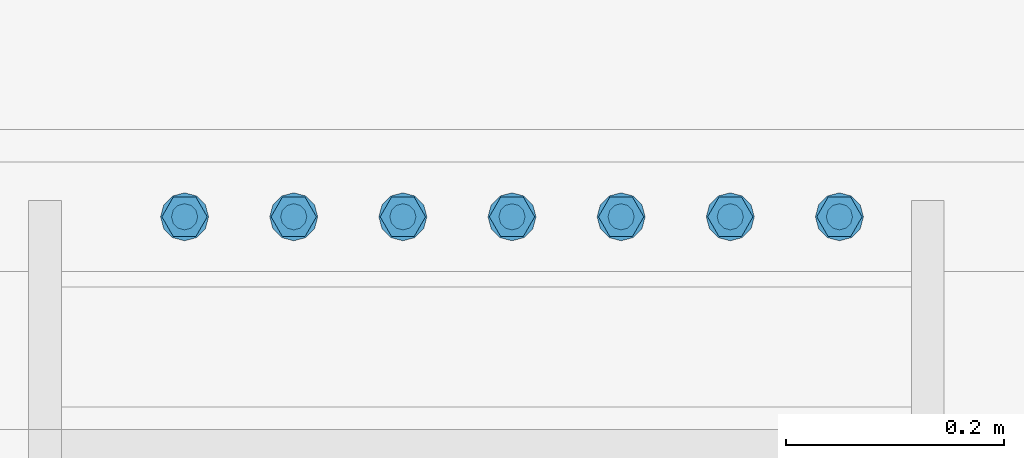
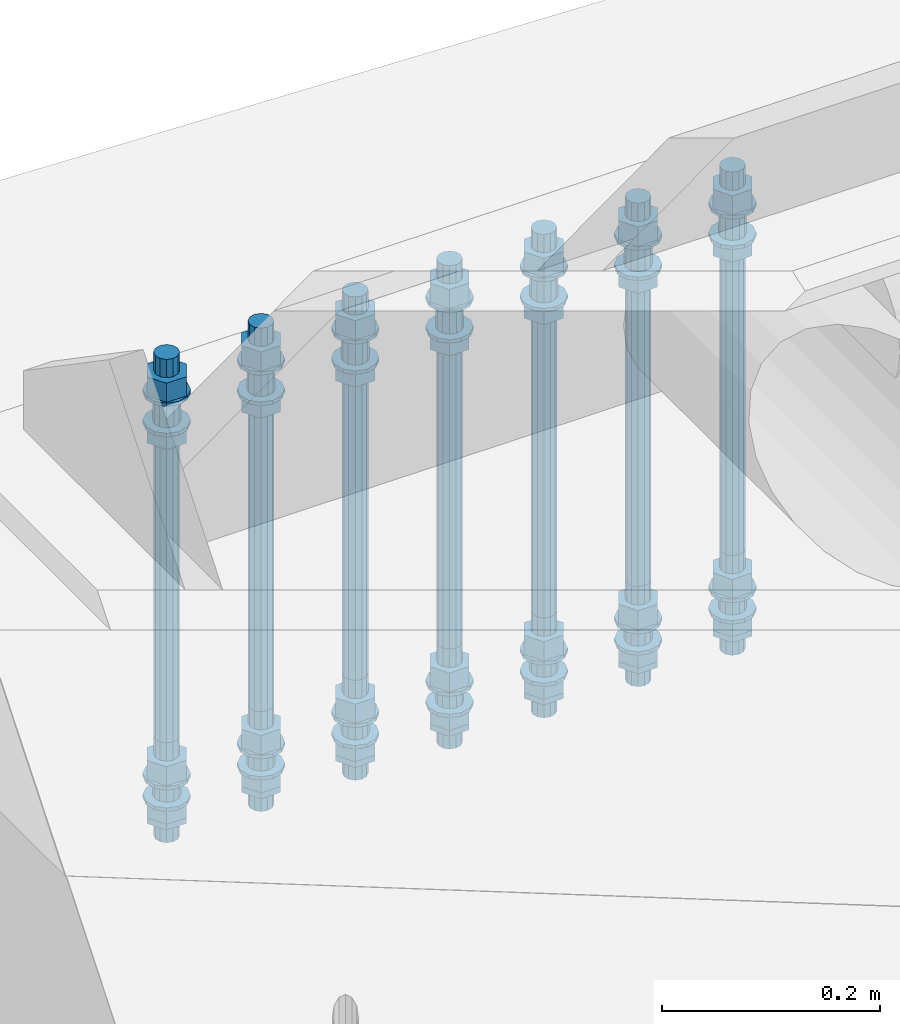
# One storey, part 36 of 1530: 3 mechanical fasteners.
"""IFC2X3 building model written with IfcOpenShell, lengths in millimetres."""

from ifc_helpers import new_model, si_unit, frame, origin_with_axes, place, context, subcontext, project, spatial, faceted_brep, source, transform, mapped, material, type_object, element, save


model = new_model("IFC2X3")

# Units and contexts
model_context = context("Model", 3, precision=1e-05, world=origin_with_axes())
body_context = subcontext(model_context, "Body", "Model", "MODEL_VIEW")
ifc_project = project(units=[si_unit("LENGTHUNIT", "METRE", prefix="MILLI"), si_unit("AREAUNIT", "SQUARE_METRE"), si_unit("VOLUMEUNIT", "CUBIC_METRE"), si_unit("MASSUNIT", "GRAM", prefix="KILO"), si_unit("TIMEUNIT", "SECOND"), si_unit("PLANEANGLEUNIT", "RADIAN"), si_unit("SOLIDANGLEUNIT", "STERADIAN"), si_unit("THERMODYNAMICTEMPERATUREUNIT", "DEGREE_CELSIUS"), si_unit("LUMINOUSINTENSITYUNIT", "LUMEN")], contexts=[model_context])

# Site, building, storey
site_placement = place(None, origin_with_axes())
site = spatial("IfcSite", under=ifc_project, at=site_placement, Name="Brattvåg", CompositionType="ELEMENT")
building_placement = place(site_placement, origin_with_axes())
building = spatial("IfcBuilding", under=site, at=building_placement, Name="Undefined", CompositionType="ELEMENT")
storey_placement = place(building_placement, origin_with_axes())
storey = spatial("IfcBuildingStorey", under=building, at=storey_placement, Name="Undefined", CompositionType="ELEMENT", Elevation=0.0)

# Mechanical fasteners
ifc_material = material(Name="8")
mechanical_fastener_type = type_object("IfcMechanicalFastenerType", Name="Bolt assembly")
shared_shape_1 = source(origin_with_axes(), body_context, "Body", "Brep", [
    faceted_brep([(20.7846096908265, -39.0003051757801, 0.0), (10.3923048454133, -39.0003051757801, 18.0), (-10.3923048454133, -39.0003051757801, 18.0), (-20.7846096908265, -39.0003051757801, 2.54538057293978e-15), (-10.3923048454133, -39.0003051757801, -18.0), (10.3923048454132, -39.0003051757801, -18.0), (10.3923048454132, -24.0003051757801, -18.0), (-10.3923048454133, -24.0003051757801, -18.0), (-20.7846096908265, -24.0003051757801, 2.54538057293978e-15), (-10.3923048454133, -24.0003051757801, 18.0), (10.3923048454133, -24.0003051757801, 18.0), (20.7846096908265, -24.0003051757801, 0.0), (12.0, -24.0003051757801, 0.0), (10.3923048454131, -24.0003051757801, 6.00000000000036), (5.99999999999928, -24.0003051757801, 10.3923048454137), (-1.24360317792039e-12, -24.0003051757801, 12.0), (-6.00000000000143, -24.0003051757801, 10.3923048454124), (-10.3923048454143, -24.0003051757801, 5.99999999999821), (-12.0, -24.0003051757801, -2.48720635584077e-12), (-10.3923048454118, -24.0003051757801, -6.00000000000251), (-5.99999999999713, -24.0003051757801, -10.3923048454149), (3.71748685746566e-12, -24.0003051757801, -12.0), (6.00000000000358, -24.0003051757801, -10.3923048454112), (10.3923048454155, -24.0003051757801, -5.99999999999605), (10.3923048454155, 45.9996948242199, -5.99999999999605), (6.00000000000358, 45.9996948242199, -10.3923048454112), (3.71748685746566e-12, 45.9996948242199, -12.0), (-5.99999999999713, 45.9996948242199, -10.3923048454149), (-10.3923048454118, 45.9996948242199, -6.00000000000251), (-12.0, 45.9996948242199, -2.48720635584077e-12), (-10.3923048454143, 45.9996948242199, 5.99999999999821), (-6.00000000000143, 45.9996948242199, 10.3923048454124), (-1.24360317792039e-12, 45.9996948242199, 12.0), (5.99999999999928, 45.9996948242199, 10.3923048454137), (10.3923048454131, 45.9996948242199, 6.00000000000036), (12.0, 45.9996948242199, 0.0), (22.0, -24.0003051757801, 0.0), (19.0525588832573, -24.0003051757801, 11.0000000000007), (10.9999999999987, -24.0003051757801, 19.0525588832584), (-2.27993915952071e-12, -24.0003051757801, 22.0), (-11.0000000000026, -24.0003051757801, 19.0525588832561), (-19.0525588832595, -24.0003051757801, 10.9999999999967), (-22.0, -24.0003051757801, -4.55987831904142e-12), (-19.052558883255, -24.0003051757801, -11.0000000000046), (-10.9999999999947, -24.0003051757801, -19.0525588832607), (6.81539257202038e-12, -24.0003051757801, -22.0), (11.0000000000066, -24.0003051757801, -19.0525588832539), (19.0525588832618, -24.0003051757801, -10.9999999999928), (19.0525588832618, -20.0003051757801, -10.9999999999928), (11.0000000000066, -20.0003051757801, -19.0525588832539), (6.81539257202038e-12, -20.0003051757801, -22.0), (-10.9999999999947, -20.0003051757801, -19.0525588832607), (-19.052558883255, -20.0003051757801, -11.0000000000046), (-22.0, -20.0003051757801, -4.55987831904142e-12), (-19.0525588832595, -20.0003051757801, 10.9999999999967), (-11.0000000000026, -20.0003051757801, 19.0525588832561), (-2.27993915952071e-12, -20.0003051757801, 22.0), (10.9999999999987, -20.0003051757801, 19.0525588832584), (19.0525588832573, -20.0003051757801, 11.0000000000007), (22.0, -20.0003051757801, 0.0), (22.0, -0.000305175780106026, 0.0), (19.0525588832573, -0.000305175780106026, 11.0000000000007), (10.9999999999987, -0.000305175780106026, 19.0525588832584), (-2.27993915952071e-12, -0.000305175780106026, 22.0), (-11.0000000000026, -0.000305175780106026, 19.0525588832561), (-19.0525588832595, -0.000305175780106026, 10.9999999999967), (-22.0, -0.000305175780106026, -4.55987831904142e-12), (-19.052558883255, -0.000305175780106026, -11.0000000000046), (-10.9999999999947, -0.000305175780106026, -19.0525588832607), (6.81539257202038e-12, -0.000305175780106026, -22.0), (11.0000000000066, -0.000305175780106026, -19.0525588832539), (19.0525588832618, -0.000305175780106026, -10.9999999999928), (19.0525588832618, 3.99969482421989, -10.9999999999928), (11.0000000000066, 3.99969482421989, -19.0525588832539), (6.81539257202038e-12, 3.99969482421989, -22.0), (-10.9999999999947, 3.99969482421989, -19.0525588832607), (-19.052558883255, 3.99969482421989, -11.0000000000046), (-22.0, 3.99969482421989, -4.55987831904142e-12), (-19.0525588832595, 3.99969482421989, 10.9999999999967), (-11.0000000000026, 3.99969482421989, 19.0525588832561), (-2.27993915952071e-12, 3.99969482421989, 22.0), (10.9999999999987, 3.99969482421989, 19.0525588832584), (19.0525588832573, 3.99969482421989, 11.0000000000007), (22.0, 3.99969482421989, 0.0), (20.7846096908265, 3.99969482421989, 0.0), (10.3923048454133, 3.99969482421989, 18.0), (-10.3923048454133, 3.99969482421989, 18.0), (-20.7846096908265, 3.99969482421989, 2.54538057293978e-15), (-10.3923048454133, 3.99969482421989, -18.0), (10.3923048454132, 3.99969482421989, -18.0), (10.3923048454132, 25.4996948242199, -18.0), (-10.3923048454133, 25.4996948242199, -18.0), (-20.7846096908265, 25.4996948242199, 2.54538057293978e-15), (-10.3923048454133, 25.4996948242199, 18.0), (10.3923048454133, 25.4996948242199, 18.0), (20.7846096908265, 25.4996948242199, 0.0)], [[[0, 1, 2, 3, 4, 5]], [[6, 7, 8, 9, 10, 11]], [[0, 11, 10, 1]], [[1, 10, 9, 2]], [[2, 9, 8, 3]], [[3, 8, 7, 4]], [[4, 7, 6, 5]], [[5, 6, 11, 0]], [[12, 13, 14, 15, 16, 17, 18, 19, 20, 21, 22, 23]], [[24, 25, 26, 27, 28, 29, 30, 31, 32, 33, 34, 35]], [[12, 35, 34, 13]], [[13, 34, 33, 14]], [[14, 33, 32, 15]], [[15, 32, 31, 16]], [[16, 31, 30, 17]], [[17, 30, 29, 18]], [[18, 29, 28, 19]], [[19, 28, 27, 20]], [[20, 27, 26, 21]], [[21, 26, 25, 22]], [[22, 25, 24, 23]], [[23, 24, 35, 12]], [[36, 37, 38, 39, 40, 41, 42, 43, 44, 45, 46, 47]], [[48, 49, 50, 51, 52, 53, 54, 55, 56, 57, 58, 59]], [[36, 59, 58, 37]], [[37, 58, 57, 38]], [[38, 57, 56, 39]], [[39, 56, 55, 40]], [[40, 55, 54, 41]], [[41, 54, 53, 42]], [[42, 53, 52, 43]], [[43, 52, 51, 44]], [[44, 51, 50, 45]], [[45, 50, 49, 46]], [[46, 49, 48, 47]], [[47, 48, 59, 36]], [[60, 61, 62, 63, 64, 65, 66, 67, 68, 69, 70, 71]], [[72, 73, 74, 75, 76, 77, 78, 79, 80, 81, 82, 83]], [[60, 83, 82, 61]], [[61, 82, 81, 62]], [[62, 81, 80, 63]], [[63, 80, 79, 64]], [[64, 79, 78, 65]], [[65, 78, 77, 66]], [[66, 77, 76, 67]], [[67, 76, 75, 68]], [[68, 75, 74, 69]], [[69, 74, 73, 70]], [[70, 73, 72, 71]], [[71, 72, 83, 60]], [[84, 85, 86, 87, 88, 89]], [[90, 91, 92, 93, 94, 95]], [[84, 95, 94, 85]], [[85, 94, 93, 86]], [[86, 93, 92, 87]], [[87, 92, 91, 88]], [[88, 91, 90, 89]], [[89, 90, 95, 84]]]),
    faceted_brep([(13.0, -20.0003051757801, 0.0), (11.2583302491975, -20.0003051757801, 6.50000000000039), (6.49999999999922, -20.0003051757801, 11.2583302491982), (-1.34723677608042e-12, -20.0003051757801, 13.0), (-6.50000000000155, -20.0003051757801, 11.2583302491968), (-11.2583302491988, -20.0003051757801, 6.49999999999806), (-13.0, -20.0003051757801, -2.69447355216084e-12), (-11.2583302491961, -20.0003051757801, -6.50000000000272), (-6.4999999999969, -20.0003051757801, -11.2583302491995), (4.02727742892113e-12, -20.0003051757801, -13.0), (6.50000000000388, -20.0003051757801, -11.2583302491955), (11.2583302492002, -20.0003051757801, -6.49999999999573), (11.2583302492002, 0.0996948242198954, -6.49999999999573), (6.50000000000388, 0.0996948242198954, -11.2583302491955), (4.02727742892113e-12, 0.0996948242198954, -13.0), (-6.4999999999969, 0.0996948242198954, -11.2583302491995), (-11.2583302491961, 0.0996948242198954, -6.50000000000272), (-13.0, 0.0996948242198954, -2.69447355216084e-12), (-11.2583302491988, 0.0996948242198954, 6.49999999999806), (-6.50000000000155, 0.0996948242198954, 11.2583302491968), (-1.34723677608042e-12, 0.0996948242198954, 13.0), (6.49999999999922, 0.0996948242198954, 11.2583302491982), (11.2583302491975, 0.0996948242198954, 6.50000000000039), (13.0, 0.0996948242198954, 0.0)], [[[0, 1, 2, 3, 4, 5, 6, 7, 8, 9, 10, 11]], [[12, 13, 14, 15, 16, 17, 18, 19, 20, 21, 22, 23]], [[0, 23, 22, 1]], [[1, 22, 21, 2]], [[2, 21, 20, 3]], [[3, 20, 19, 4]], [[4, 19, 18, 5]], [[5, 18, 17, 6]], [[6, 17, 16, 7]], [[7, 16, 15, 8]], [[8, 15, 14, 9]], [[9, 14, 13, 10]], [[10, 13, 12, 11]], [[11, 12, 23, 0]]]),
])
mechanical_fastener_1_placement = place(storey_placement, frame((-310.999443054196, 9839.99977111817, -1458.00001144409), z_axis=(0.0, -1.0, 0.0), x_axis=(1.0, 0.0, 0.0)))
element("IfcMechanicalFastener", 1, at=mechanical_fastener_1_placement, inside=storey, type_object=mechanical_fastener_type, material=ifc_material, Name="Bolt assembly", NominalDiameter=24.0, NominalLength=70.0, context=body_context, shape_type="MappedRepresentation", body=[
    mapped(shared_shape_1, transform((0.0, 0.0, 0.0))),
    mapped(shared_shape_1, transform((100.0, 0.0, 0.0))),
    mapped(shared_shape_1, transform((200.0, 0.0, 0.0))),
    mapped(shared_shape_1, transform((300.0, 0.0, 0.0))),
    mapped(shared_shape_1, transform((400.0, 0.0, 0.0))),
    mapped(shared_shape_1, transform((500.0, 0.0, 0.0))),
    mapped(shared_shape_1, transform((600.0, 0.0, 0.0))),
])
shared_shape_2 = source(origin_with_axes(), body_context, "Body", "Brep", [
    faceted_brep([(20.7846096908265, -49.0000000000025, 0.0), (10.3923048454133, -49.0000000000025, 18.0), (-10.3923048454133, -49.0000000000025, 18.0), (-20.7846096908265, -49.0000000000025, 2.54538057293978e-15), (-10.3923048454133, -49.0000000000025, -18.0), (10.3923048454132, -49.0000000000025, -18.0), (10.3923048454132, -34.0000000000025, -18.0), (-10.3923048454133, -34.0000000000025, -18.0), (-20.7846096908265, -34.0000000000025, 2.54538057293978e-15), (-10.3923048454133, -34.0000000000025, 18.0), (10.3923048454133, -34.0000000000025, 18.0), (20.7846096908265, -34.0000000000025, 0.0), (12.0, -34.0000000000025, 0.0), (10.3923048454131, -34.0000000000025, 6.00000000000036), (5.99999999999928, -34.0000000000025, 10.3923048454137), (-1.24360317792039e-12, -34.0000000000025, 12.0), (-6.00000000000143, -34.0000000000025, 10.3923048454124), (-10.3923048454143, -34.0000000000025, 5.99999999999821), (-12.0, -34.0000000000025, -2.48720635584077e-12), (-10.3923048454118, -34.0000000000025, -6.00000000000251), (-5.99999999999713, -34.0000000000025, -10.3923048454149), (3.71748685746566e-12, -34.0000000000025, -12.0), (6.00000000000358, -34.0000000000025, -10.3923048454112), (10.3923048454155, -34.0000000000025, -5.99999999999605), (10.3923048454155, 46.0, -5.99999999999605), (6.00000000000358, 46.0, -10.3923048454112), (3.71748685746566e-12, 46.0, -12.0), (-5.99999999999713, 46.0, -10.3923048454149), (-10.3923048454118, 46.0, -6.00000000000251), (-12.0, 46.0, -2.48720635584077e-12), (-10.3923048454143, 46.0, 5.99999999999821), (-6.00000000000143, 46.0, 10.3923048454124), (-1.24360317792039e-12, 46.0, 12.0), (5.99999999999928, 46.0, 10.3923048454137), (10.3923048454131, 46.0, 6.00000000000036), (12.0, 46.0, 0.0), (22.0, -34.0000000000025, 0.0), (19.0525588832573, -34.0000000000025, 11.0000000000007), (10.9999999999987, -34.0000000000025, 19.0525588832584), (-2.27993915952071e-12, -34.0000000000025, 22.0), (-11.0000000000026, -34.0000000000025, 19.0525588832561), (-19.0525588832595, -34.0000000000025, 10.9999999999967), (-22.0, -34.0000000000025, -4.55987831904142e-12), (-19.052558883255, -34.0000000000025, -11.0000000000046), (-10.9999999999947, -34.0000000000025, -19.0525588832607), (6.81539257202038e-12, -34.0000000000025, -22.0), (11.0000000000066, -34.0000000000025, -19.0525588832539), (19.0525588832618, -34.0000000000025, -10.9999999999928), (19.0525588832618, -30.0000000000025, -10.9999999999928), (11.0000000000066, -30.0000000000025, -19.0525588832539), (6.81539257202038e-12, -30.0000000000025, -22.0), (-10.9999999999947, -30.0000000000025, -19.0525588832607), (-19.052558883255, -30.0000000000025, -11.0000000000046), (-22.0, -30.0000000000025, -4.55987831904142e-12), (-19.0525588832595, -30.0000000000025, 10.9999999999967), (-11.0000000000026, -30.0000000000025, 19.0525588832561), (-2.27993915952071e-12, -30.0000000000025, 22.0), (10.9999999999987, -30.0000000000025, 19.0525588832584), (19.0525588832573, -30.0000000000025, 11.0000000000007), (22.0, -30.0000000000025, 0.0), (22.0, 0.0, 0.0), (19.0525588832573, 0.0, 11.0000000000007), (10.9999999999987, 0.0, 19.0525588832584), (-2.27993915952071e-12, 0.0, 22.0), (-11.0000000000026, 0.0, 19.0525588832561), (-19.0525588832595, 0.0, 10.9999999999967), (-22.0, 0.0, -4.55987831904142e-12), (-19.052558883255, 0.0, -11.0000000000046), (-10.9999999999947, 0.0, -19.0525588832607), (6.81539257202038e-12, 0.0, -22.0), (11.0000000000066, 0.0, -19.0525588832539), (19.0525588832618, 0.0, -10.9999999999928), (19.0525588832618, 4.0, -10.9999999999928), (11.0000000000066, 4.0, -19.0525588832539), (6.81539257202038e-12, 4.0, -22.0), (-10.9999999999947, 4.0, -19.0525588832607), (-19.052558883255, 4.0, -11.0000000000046), (-22.0, 4.0, -4.55987831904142e-12), (-19.0525588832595, 4.0, 10.9999999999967), (-11.0000000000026, 4.0, 19.0525588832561), (-2.27993915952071e-12, 4.0, 22.0), (10.9999999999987, 4.0, 19.0525588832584), (19.0525588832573, 4.0, 11.0000000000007), (22.0, 4.0, 0.0), (20.7846096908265, 4.0, 0.0), (10.3923048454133, 4.0, 18.0), (-10.3923048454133, 4.0, 18.0), (-20.7846096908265, 4.0, 2.54538057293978e-15), (-10.3923048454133, 4.0, -18.0), (10.3923048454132, 4.0, -18.0), (10.3923048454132, 25.5, -18.0), (-10.3923048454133, 25.5, -18.0), (-20.7846096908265, 25.5, 2.54538057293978e-15), (-10.3923048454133, 25.5, 18.0), (10.3923048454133, 25.5, 18.0), (20.7846096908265, 25.5, 0.0)], [[[0, 1, 2, 3, 4, 5]], [[6, 7, 8, 9, 10, 11]], [[0, 11, 10, 1]], [[1, 10, 9, 2]], [[2, 9, 8, 3]], [[3, 8, 7, 4]], [[4, 7, 6, 5]], [[5, 6, 11, 0]], [[12, 13, 14, 15, 16, 17, 18, 19, 20, 21, 22, 23]], [[24, 25, 26, 27, 28, 29, 30, 31, 32, 33, 34, 35]], [[12, 35, 34, 13]], [[13, 34, 33, 14]], [[14, 33, 32, 15]], [[15, 32, 31, 16]], [[16, 31, 30, 17]], [[17, 30, 29, 18]], [[18, 29, 28, 19]], [[19, 28, 27, 20]], [[20, 27, 26, 21]], [[21, 26, 25, 22]], [[22, 25, 24, 23]], [[23, 24, 35, 12]], [[36, 37, 38, 39, 40, 41, 42, 43, 44, 45, 46, 47]], [[48, 49, 50, 51, 52, 53, 54, 55, 56, 57, 58, 59]], [[36, 59, 58, 37]], [[37, 58, 57, 38]], [[38, 57, 56, 39]], [[39, 56, 55, 40]], [[40, 55, 54, 41]], [[41, 54, 53, 42]], [[42, 53, 52, 43]], [[43, 52, 51, 44]], [[44, 51, 50, 45]], [[45, 50, 49, 46]], [[46, 49, 48, 47]], [[47, 48, 59, 36]], [[60, 61, 62, 63, 64, 65, 66, 67, 68, 69, 70, 71]], [[72, 73, 74, 75, 76, 77, 78, 79, 80, 81, 82, 83]], [[60, 83, 82, 61]], [[61, 82, 81, 62]], [[62, 81, 80, 63]], [[63, 80, 79, 64]], [[64, 79, 78, 65]], [[65, 78, 77, 66]], [[66, 77, 76, 67]], [[67, 76, 75, 68]], [[68, 75, 74, 69]], [[69, 74, 73, 70]], [[70, 73, 72, 71]], [[71, 72, 83, 60]], [[84, 85, 86, 87, 88, 89]], [[90, 91, 92, 93, 94, 95]], [[84, 95, 94, 85]], [[85, 94, 93, 86]], [[86, 93, 92, 87]], [[87, 92, 91, 88]], [[88, 91, 90, 89]], [[89, 90, 95, 84]]]),
    faceted_brep([(13.0, -30.0, 0.0), (11.2583302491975, -30.0, 6.50000000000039), (6.49999999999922, -30.0, 11.2583302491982), (-1.34723677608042e-12, -30.0, 13.0), (-6.50000000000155, -30.0, 11.2583302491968), (-11.2583302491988, -30.0, 6.49999999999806), (-13.0, -30.0, -2.69447355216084e-12), (-11.2583302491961, -30.0, -6.50000000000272), (-6.4999999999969, -30.0, -11.2583302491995), (4.02727742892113e-12, -30.0, -13.0), (6.50000000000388, -30.0, -11.2583302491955), (11.2583302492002, -30.0, -6.49999999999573), (11.2583302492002, 0.0999999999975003, -6.49999999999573), (6.50000000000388, 0.0999999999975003, -11.2583302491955), (4.02727742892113e-12, 0.0999999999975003, -13.0), (-6.4999999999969, 0.0999999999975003, -11.2583302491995), (-11.2583302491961, 0.0999999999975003, -6.50000000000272), (-13.0, 0.0999999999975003, -2.69447355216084e-12), (-11.2583302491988, 0.0999999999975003, 6.49999999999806), (-6.50000000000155, 0.0999999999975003, 11.2583302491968), (-1.34723677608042e-12, 0.0999999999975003, 13.0), (6.49999999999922, 0.0999999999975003, 11.2583302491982), (11.2583302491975, 0.0999999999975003, 6.50000000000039), (13.0, 0.0999999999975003, 0.0)], [[[0, 1, 2, 3, 4, 5, 6, 7, 8, 9, 10, 11]], [[12, 13, 14, 15, 16, 17, 18, 19, 20, 21, 22, 23]], [[0, 23, 22, 1]], [[1, 22, 21, 2]], [[2, 21, 20, 3]], [[3, 20, 19, 4]], [[4, 19, 18, 5]], [[5, 18, 17, 6]], [[6, 17, 16, 7]], [[7, 16, 15, 8]], [[8, 15, 14, 9]], [[9, 14, 13, 10]], [[10, 13, 12, 11]], [[11, 12, 23, 0]]]),
])
mechanical_fastener_2_placement = place(storey_placement, frame((-310.999443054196, 9839.99977111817, -1028.00001144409), z_axis=(0.0, -1.0, 0.0), x_axis=(1.0, 0.0, 0.0)))
element("IfcMechanicalFastener", 2, at=mechanical_fastener_2_placement, inside=storey, type_object=mechanical_fastener_type, material=ifc_material, Name="Bolt assembly", NominalDiameter=24.0, NominalLength=80.0, context=body_context, shape_type="MappedRepresentation", body=[
    mapped(shared_shape_2, transform((0.0, 0.0, 0.0))),
    mapped(shared_shape_2, transform((100.0, 0.0, 0.0))),
    mapped(shared_shape_2, transform((200.0, 0.0, 0.0))),
    mapped(shared_shape_2, transform((300.0, 0.0, 0.0))),
    mapped(shared_shape_2, transform((400.0, 0.0, 0.0))),
    mapped(shared_shape_2, transform((500.0, 0.0, 0.0))),
    mapped(shared_shape_2, transform((600.0, 0.0, 0.0))),
])
shared_shape_3 = source(origin_with_axes(), body_context, "Body", "Brep", [
    faceted_brep([(20.7846096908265, -19.0, 0.0), (10.3923048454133, -19.0, 18.0), (-10.3923048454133, -19.0, 18.0), (-20.7846096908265, -19.0, 2.54538057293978e-15), (-10.3923048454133, -19.0, -18.0), (10.3923048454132, -19.0, -18.0), (10.3923048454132, -4.0, -18.0), (-10.3923048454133, -4.0, -18.0), (-20.7846096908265, -4.0, 2.54538057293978e-15), (-10.3923048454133, -4.0, 18.0), (10.3923048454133, -4.0, 18.0), (20.7846096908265, -4.0, 0.0), (12.0, -4.0, 0.0), (10.3923048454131, -4.0, 6.00000000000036), (5.99999999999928, -4.0, 10.3923048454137), (-1.24360317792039e-12, -4.0, 12.0), (-6.00000000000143, -4.0, 10.3923048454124), (-10.3923048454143, -4.0, 5.99999999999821), (-12.0, -4.0, -2.48720635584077e-12), (-10.3923048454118, -4.0, -6.00000000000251), (-5.99999999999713, -4.0, -10.3923048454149), (3.71748685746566e-12, -4.0, -12.0), (6.00000000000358, -4.0, -10.3923048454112), (10.3923048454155, -4.0, -5.99999999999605), (10.3923048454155, 496.0, -5.99999999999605), (6.00000000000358, 496.0, -10.3923048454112), (3.71748685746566e-12, 496.0, -12.0), (-5.99999999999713, 496.0, -10.3923048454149), (-10.3923048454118, 496.0, -6.00000000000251), (-12.0, 496.0, -2.48720635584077e-12), (-10.3923048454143, 496.0, 5.99999999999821), (-6.00000000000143, 496.0, 10.3923048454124), (-1.24360317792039e-12, 496.0, 12.0), (5.99999999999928, 496.0, 10.3923048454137), (10.3923048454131, 496.0, 6.00000000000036), (12.0, 496.0, 0.0), (22.0, -4.0, 0.0), (19.0525588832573, -4.0, 11.0000000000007), (10.9999999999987, -4.0, 19.0525588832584), (-2.27993915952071e-12, -4.0, 22.0), (-11.0000000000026, -4.0, 19.0525588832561), (-19.0525588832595, -4.0, 10.9999999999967), (-22.0, -4.0, -4.55987831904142e-12), (-19.052558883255, -4.0, -11.0000000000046), (-10.9999999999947, -4.0, -19.0525588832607), (6.81539257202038e-12, -4.0, -22.0), (11.0000000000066, -4.0, -19.0525588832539), (19.0525588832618, -4.0, -10.9999999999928), (19.0525588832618, 0.0, -10.9999999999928), (11.0000000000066, 0.0, -19.0525588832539), (6.81539257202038e-12, 0.0, -22.0), (-10.9999999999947, 0.0, -19.0525588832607), (-19.052558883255, 0.0, -11.0000000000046), (-22.0, 0.0, -4.55987831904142e-12), (-19.0525588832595, 0.0, 10.9999999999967), (-11.0000000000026, 0.0, 19.0525588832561), (-2.27993915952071e-12, 0.0, 22.0), (10.9999999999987, 0.0, 19.0525588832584), (19.0525588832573, 0.0, 11.0000000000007), (22.0, 0.0, 0.0), (22.0, 450.00030517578, 0.0), (19.0525588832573, 450.00030517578, 11.0000000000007), (10.9999999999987, 450.00030517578, 19.0525588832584), (-2.27993915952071e-12, 450.00030517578, 22.0), (-11.0000000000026, 450.00030517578, 19.0525588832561), (-19.0525588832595, 450.00030517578, 10.9999999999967), (-22.0, 450.00030517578, -4.55987831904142e-12), (-19.052558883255, 450.00030517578, -11.0000000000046), (-10.9999999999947, 450.00030517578, -19.0525588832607), (6.81539257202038e-12, 450.00030517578, -22.0), (11.0000000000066, 450.00030517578, -19.0525588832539), (19.0525588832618, 450.00030517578, -10.9999999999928), (19.0525588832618, 454.00030517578, -10.9999999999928), (11.0000000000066, 454.00030517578, -19.0525588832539), (6.81539257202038e-12, 454.00030517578, -22.0), (-10.9999999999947, 454.00030517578, -19.0525588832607), (-19.052558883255, 454.00030517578, -11.0000000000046), (-22.0, 454.00030517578, -4.55987831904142e-12), (-19.0525588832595, 454.00030517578, 10.9999999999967), (-11.0000000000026, 454.00030517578, 19.0525588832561), (-2.27993915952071e-12, 454.00030517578, 22.0), (10.9999999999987, 454.00030517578, 19.0525588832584), (19.0525588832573, 454.00030517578, 11.0000000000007), (22.0, 454.00030517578, 0.0), (20.7846096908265, 454.00030517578, 0.0), (10.3923048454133, 454.00030517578, 18.0), (-10.3923048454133, 454.00030517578, 18.0), (-20.7846096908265, 454.00030517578, 2.54538057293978e-15), (-10.3923048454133, 454.00030517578, -18.0), (10.3923048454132, 454.00030517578, -18.0), (10.3923048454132, 475.50030517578, -18.0), (-10.3923048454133, 475.50030517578, -18.0), (-20.7846096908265, 475.50030517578, 2.54538057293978e-15), (-10.3923048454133, 475.50030517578, 18.0), (10.3923048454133, 475.50030517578, 18.0), (20.7846096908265, 475.50030517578, 0.0)], [[[0, 1, 2, 3, 4, 5]], [[6, 7, 8, 9, 10, 11]], [[0, 11, 10, 1]], [[1, 10, 9, 2]], [[2, 9, 8, 3]], [[3, 8, 7, 4]], [[4, 7, 6, 5]], [[5, 6, 11, 0]], [[12, 13, 14, 15, 16, 17, 18, 19, 20, 21, 22, 23]], [[24, 25, 26, 27, 28, 29, 30, 31, 32, 33, 34, 35]], [[12, 35, 34, 13]], [[13, 34, 33, 14]], [[14, 33, 32, 15]], [[15, 32, 31, 16]], [[16, 31, 30, 17]], [[17, 30, 29, 18]], [[18, 29, 28, 19]], [[19, 28, 27, 20]], [[20, 27, 26, 21]], [[21, 26, 25, 22]], [[22, 25, 24, 23]], [[23, 24, 35, 12]], [[36, 37, 38, 39, 40, 41, 42, 43, 44, 45, 46, 47]], [[48, 49, 50, 51, 52, 53, 54, 55, 56, 57, 58, 59]], [[36, 59, 58, 37]], [[37, 58, 57, 38]], [[38, 57, 56, 39]], [[39, 56, 55, 40]], [[40, 55, 54, 41]], [[41, 54, 53, 42]], [[42, 53, 52, 43]], [[43, 52, 51, 44]], [[44, 51, 50, 45]], [[45, 50, 49, 46]], [[46, 49, 48, 47]], [[47, 48, 59, 36]], [[60, 61, 62, 63, 64, 65, 66, 67, 68, 69, 70, 71]], [[72, 73, 74, 75, 76, 77, 78, 79, 80, 81, 82, 83]], [[60, 83, 82, 61]], [[61, 82, 81, 62]], [[62, 81, 80, 63]], [[63, 80, 79, 64]], [[64, 79, 78, 65]], [[65, 78, 77, 66]], [[66, 77, 76, 67]], [[67, 76, 75, 68]], [[68, 75, 74, 69]], [[69, 74, 73, 70]], [[70, 73, 72, 71]], [[71, 72, 83, 60]], [[84, 85, 86, 87, 88, 89]], [[90, 91, 92, 93, 94, 95]], [[84, 95, 94, 85]], [[85, 94, 93, 86]], [[86, 93, 92, 87]], [[87, 92, 91, 88]], [[88, 91, 90, 89]], [[89, 90, 95, 84]]]),
    faceted_brep([(13.0, 0.0999999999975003, 0.0), (11.2583302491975, 0.0999999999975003, 6.50000000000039), (6.49999999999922, 0.0999999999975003, 11.2583302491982), (-1.34723677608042e-12, 0.0999999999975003, 13.0), (-6.50000000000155, 0.0999999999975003, 11.2583302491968), (-11.2583302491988, 0.0999999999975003, 6.49999999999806), (-13.0, 0.0999999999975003, -2.69447355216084e-12), (-11.2583302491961, 0.0999999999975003, -6.50000000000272), (-6.4999999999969, 0.0999999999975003, -11.2583302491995), (4.02727742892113e-12, 0.0999999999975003, -13.0), (6.50000000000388, 0.0999999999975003, -11.2583302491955), (11.2583302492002, 0.0999999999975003, -6.49999999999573), (11.2583302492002, 30.1, -6.49999999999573), (6.50000000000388, 30.1, -11.2583302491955), (4.02727742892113e-12, 30.1, -13.0), (-6.4999999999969, 30.1, -11.2583302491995), (-11.2583302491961, 30.1, -6.50000000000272), (-13.0, 30.1, -2.69447355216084e-12), (-11.2583302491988, 30.1, 6.49999999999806), (-6.50000000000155, 30.1, 11.2583302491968), (-1.34723677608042e-12, 30.1, 13.0), (6.49999999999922, 30.1, 11.2583302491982), (11.2583302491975, 30.1, 6.50000000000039), (13.0, 30.1, 0.0), (13.0, 429.90030517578, 0.0), (11.2583302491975, 429.90030517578, 6.50000000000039), (6.49999999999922, 429.90030517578, 11.2583302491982), (-1.34723677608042e-12, 429.90030517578, 13.0), (-6.50000000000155, 429.90030517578, 11.2583302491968), (-11.2583302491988, 429.90030517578, 6.49999999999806), (-13.0, 429.90030517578, -2.69447355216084e-12), (-11.2583302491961, 429.90030517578, -6.50000000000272), (-6.4999999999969, 429.90030517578, -11.2583302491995), (4.02727742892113e-12, 429.90030517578, -13.0), (6.50000000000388, 429.90030517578, -11.2583302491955), (11.2583302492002, 429.90030517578, -6.49999999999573), (11.2583302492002, 450.00030517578, -6.49999999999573), (6.50000000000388, 450.00030517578, -11.2583302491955), (4.02727742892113e-12, 450.00030517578, -13.0), (-6.4999999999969, 450.00030517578, -11.2583302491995), (-11.2583302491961, 450.00030517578, -6.50000000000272), (-13.0, 450.00030517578, -2.69447355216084e-12), (-11.2583302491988, 450.00030517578, 6.49999999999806), (-6.50000000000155, 450.00030517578, 11.2583302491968), (-1.34723677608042e-12, 450.00030517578, 13.0), (6.49999999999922, 450.00030517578, 11.2583302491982), (11.2583302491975, 450.00030517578, 6.50000000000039), (13.0, 450.00030517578, 0.0)], [[[0, 1, 2, 3, 4, 5, 6, 7, 8, 9, 10, 11]], [[12, 13, 14, 15, 16, 17, 18, 19, 20, 21, 22, 23]], [[0, 23, 22, 1]], [[1, 22, 21, 2]], [[2, 21, 20, 3]], [[3, 20, 19, 4]], [[4, 19, 18, 5]], [[5, 18, 17, 6]], [[6, 17, 16, 7]], [[7, 16, 15, 8]], [[8, 15, 14, 9]], [[9, 14, 13, 10]], [[10, 13, 12, 11]], [[11, 12, 23, 0]], [[24, 25, 26, 27, 28, 29, 30, 31, 32, 33, 34, 35]], [[36, 37, 38, 39, 40, 41, 42, 43, 44, 45, 46, 47]], [[24, 47, 46, 25]], [[25, 46, 45, 26]], [[26, 45, 44, 27]], [[27, 44, 43, 28]], [[28, 43, 42, 29]], [[29, 42, 41, 30]], [[30, 41, 40, 31]], [[31, 40, 39, 32]], [[32, 39, 38, 33]], [[33, 38, 37, 34]], [[34, 37, 36, 35]], [[35, 36, 47, 24]]]),
])
mechanical_fastener_3_placement = place(storey_placement, frame((-310.999443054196, 9839.99977111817, -1028.00001144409), z_axis=(0.0, 1.0, 0.0), x_axis=(1.0, 0.0, 0.0)))
element("IfcMechanicalFastener", 3, at=mechanical_fastener_3_placement, inside=storey, type_object=mechanical_fastener_type, material=ifc_material, Name="Bolt assembly", NominalDiameter=24.0, NominalLength=500.0, context=body_context, shape_type="MappedRepresentation", body=[
    mapped(shared_shape_3, transform((0.0, 0.0, 0.0))),
    mapped(shared_shape_3, transform((100.0, 0.0, 0.0))),
    mapped(shared_shape_3, transform((200.0, 0.0, 0.0))),
    mapped(shared_shape_3, transform((300.0, 0.0, 0.0))),
    mapped(shared_shape_3, transform((400.0, 0.0, 0.0))),
    mapped(shared_shape_3, transform((500.0, 0.0, 0.0))),
    mapped(shared_shape_3, transform((600.0, 0.0, 0.0))),
])

save(model, "model.ifc")
